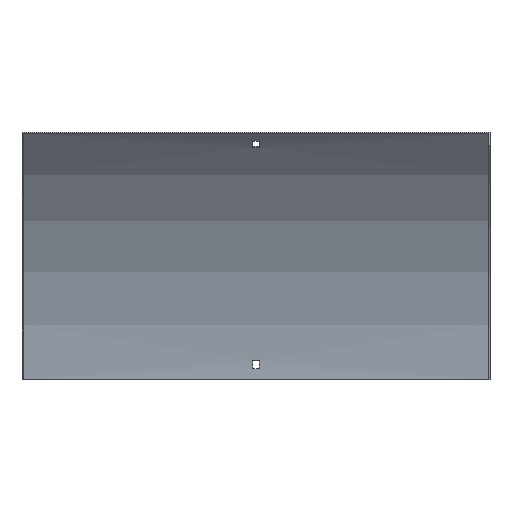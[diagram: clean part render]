
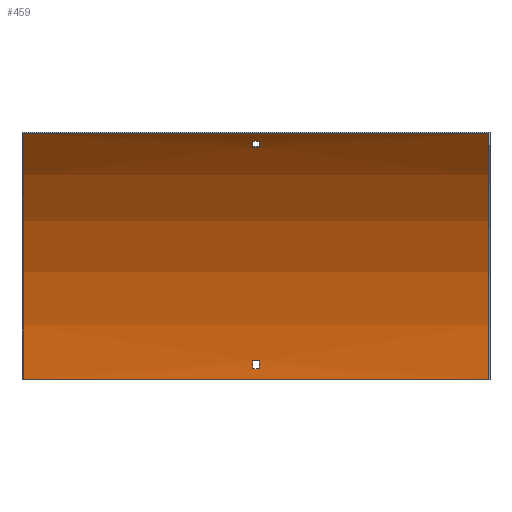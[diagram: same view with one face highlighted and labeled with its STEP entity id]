
A CAD part, front view. The second image highlights one B-rep face of the part: STEP entity #459.
In plain terms, the highlighted cylindrical face has radius 375 mm (diameter 750 mm), a partial arc.
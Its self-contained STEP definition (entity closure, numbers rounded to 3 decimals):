
#4 = VECTOR ( 'NONE', #315, 1000. ) ;
#7 = VECTOR ( 'NONE', #527, 1000. ) ;
#14 = CARTESIAN_POINT ( 'NONE',  ( -250., -376.5, 0. ) ) ;
#15 = ORIENTED_EDGE ( 'NONE', *, *, #390, .F. ) ;
#16 = EDGE_CURVE ( 'NONE', #564, #75, #227, .T. ) ;
#17 = LINE ( 'NONE', #484, #294 ) ;
#19 = AXIS2_PLACEMENT_3D ( 'NONE', #316, #593, #582 ) ;
#32 = EDGE_CURVE ( 'NONE', #292, #491, #547, .T. ) ;
#34 = ORIENTED_EDGE ( 'NONE', *, *, #52, .F. ) ;
#38 = VERTEX_POINT ( 'NONE', #181 ) ;
#44 = EDGE_LOOP ( 'NONE', ( #229, #192, #146, #287 ) ) ;
#45 = LINE ( 'NONE', #223, #81 ) ;
#52 = EDGE_CURVE ( 'NONE', #203, #564, #118, .T. ) ;
#57 = EDGE_LOOP ( 'NONE', ( #34, #499, #167, #235 ) ) ;
#75 = VERTEX_POINT ( 'NONE', #486 ) ;
#77 = FACE_BOUND ( 'NONE', #57, .T. ) ;
#78 = EDGE_CURVE ( 'NONE', #155, #203, #45, .T. ) ;
#81 = VECTOR ( 'NONE', #133, 1000. ) ;
#88 = CARTESIAN_POINT ( 'NONE',  ( -3.25, -376.5, 0. ) ) ;
#101 = ORIENTED_EDGE ( 'NONE', *, *, #119, .T. ) ;
#104 = CARTESIAN_POINT ( 'NONE',  ( -3.25, -96.902, 249.9 ) ) ;
#111 = VERTEX_POINT ( 'NONE', #601 ) ;
#113 = VECTOR ( 'NONE', #450, 1000. ) ;
#118 = CIRCLE ( 'NONE', #464, 375. ) ;
#119 = EDGE_CURVE ( 'NONE', #404, #292, #430, .T. ) ;
#125 = DIRECTION ( 'NONE',  ( -1., 0., 0. ) ) ;
#131 = EDGE_CURVE ( 'NONE', #111, #239, #567, .T. ) ;
#133 = DIRECTION ( 'NONE',  ( -1., 0., 0. ) ) ;
#136 = DIRECTION ( 'NONE',  ( -1., 0., 0. ) ) ;
#144 = DIRECTION ( 'NONE',  ( 0., 0., 1. ) ) ;
#146 = ORIENTED_EDGE ( 'NONE', *, *, #263, .T. ) ;
#155 = VERTEX_POINT ( 'NONE', #193 ) ;
#157 = DIRECTION ( 'NONE',  ( 1., 0., 0. ) ) ;
#167 = ORIENTED_EDGE ( 'NONE', *, *, #398, .F. ) ;
#181 = CARTESIAN_POINT ( 'NONE',  ( -250., -1.5, 0. ) ) ;
#192 = ORIENTED_EDGE ( 'NONE', *, *, #475, .T. ) ;
#193 = CARTESIAN_POINT ( 'NONE',  ( 3.25, -2.088, 21. ) ) ;
#203 = VERTEX_POINT ( 'NONE', #288 ) ;
#210 = DIRECTION ( 'NONE',  ( 0., 0., -1. ) ) ;
#221 = CARTESIAN_POINT ( 'NONE',  ( -3.25, -102.985, 256.544 ) ) ;
#223 = CARTESIAN_POINT ( 'NONE',  ( 251.5, -2.088, 21. ) ) ;
#227 = LINE ( 'NONE', #414, #4 ) ;
#229 = ORIENTED_EDGE ( 'NONE', *, *, #305, .T. ) ;
#235 = ORIENTED_EDGE ( 'NONE', *, *, #16, .F. ) ;
#239 = VERTEX_POINT ( 'NONE', #470 ) ;
#247 = VERTEX_POINT ( 'NONE', #104 ) ;
#248 = DIRECTION ( 'NONE',  ( 1., 0., 0. ) ) ;
#259 = LINE ( 'NONE', #400, #7 ) ;
#263 = EDGE_CURVE ( 'NONE', #384, #111, #17, .T. ) ;
#264 = CARTESIAN_POINT ( 'NONE',  ( -250., -111.335, 265.165 ) ) ;
#268 = CARTESIAN_POINT ( 'NONE',  ( 250., -1.5, 0. ) ) ;
#276 = CIRCLE ( 'NONE', #572, 375. ) ;
#277 = DIRECTION ( 'NONE',  ( 1., 0., 0. ) ) ;
#278 = DIRECTION ( 'NONE',  ( 0., 0., -1. ) ) ;
#287 = ORIENTED_EDGE ( 'NONE', *, *, #131, .T. ) ;
#288 = CARTESIAN_POINT ( 'NONE',  ( -3.25, -2.088, 21. ) ) ;
#292 = VERTEX_POINT ( 'NONE', #487 ) ;
#294 = VECTOR ( 'NONE', #248, 1000. ) ;
#305 = EDGE_CURVE ( 'NONE', #239, #247, #259, .T. ) ;
#315 = DIRECTION ( 'NONE',  ( 1., 0., 0. ) ) ;
#316 = CARTESIAN_POINT ( 'NONE',  ( 251.5, -376.5, 0. ) ) ;
#317 = VECTOR ( 'NONE', #125, 1000. ) ;
#320 = DIRECTION ( 'NONE',  ( 1., 0., 0. ) ) ;
#339 = AXIS2_PLACEMENT_3D ( 'NONE', #403, #505, #144 ) ;
#340 = CARTESIAN_POINT ( 'NONE',  ( 3.25, -376.5, 0. ) ) ;
#342 = DIRECTION ( 'NONE',  ( 0., 0., -1. ) ) ;
#362 = ORIENTED_EDGE ( 'NONE', *, *, #522, .F. ) ;
#366 = AXIS2_PLACEMENT_3D ( 'NONE', #488, #277, #210 ) ;
#369 = CARTESIAN_POINT ( 'NONE',  ( -3.25, -1.692, 12. ) ) ;
#373 = DIRECTION ( 'NONE',  ( 0., 0., 1. ) ) ;
#384 = VERTEX_POINT ( 'NONE', #221 ) ;
#390 = EDGE_CURVE ( 'NONE', #38, #491, #276, .T. ) ;
#398 = EDGE_CURVE ( 'NONE', #75, #155, #526, .T. ) ;
#400 = CARTESIAN_POINT ( 'NONE',  ( 251.5, -96.902, 249.9 ) ) ;
#402 = CYLINDRICAL_SURFACE ( 'NONE', #19, 375. ) ;
#403 = CARTESIAN_POINT ( 'NONE',  ( 3.25, -376.5, 0. ) ) ;
#404 = VERTEX_POINT ( 'NONE', #528 ) ;
#409 = FACE_BOUND ( 'NONE', #44, .T. ) ;
#410 = FACE_OUTER_BOUND ( 'NONE', #416, .T. ) ;
#414 = CARTESIAN_POINT ( 'NONE',  ( 251.5, -1.692, 12. ) ) ;
#416 = EDGE_LOOP ( 'NONE', ( #15, #362, #101, #463 ) ) ;
#417 = CARTESIAN_POINT ( 'NONE',  ( -3.25, -376.5, 0. ) ) ;
#430 = CIRCLE ( 'NONE', #366, 375. ) ;
#435 = DIRECTION ( 'NONE',  ( 0., 0., -1. ) ) ;
#437 = CIRCLE ( 'NONE', #515, 375. ) ;
#450 = DIRECTION ( 'NONE',  ( -1., 0., 0. ) ) ;
#459 = ADVANCED_FACE ( 'NONE', ( #77, #410, #409 ), #402, .F. ) ;
#462 = CARTESIAN_POINT ( 'NONE',  ( 250., -111.335, 265.165 ) ) ;
#463 = ORIENTED_EDGE ( 'NONE', *, *, #32, .T. ) ;
#464 = AXIS2_PLACEMENT_3D ( 'NONE', #417, #136, #373 ) ;
#470 = CARTESIAN_POINT ( 'NONE',  ( 3.25, -96.902, 249.9 ) ) ;
#475 = EDGE_CURVE ( 'NONE', #247, #384, #437, .T. ) ;
#484 = CARTESIAN_POINT ( 'NONE',  ( 251.5, -102.985, 256.544 ) ) ;
#486 = CARTESIAN_POINT ( 'NONE',  ( 3.25, -1.692, 12. ) ) ;
#487 = CARTESIAN_POINT ( 'NONE',  ( 250., -111.335, 265.165 ) ) ;
#488 = CARTESIAN_POINT ( 'NONE',  ( 250., -376.5, 0. ) ) ;
#491 = VERTEX_POINT ( 'NONE', #264 ) ;
#499 = ORIENTED_EDGE ( 'NONE', *, *, #78, .F. ) ;
#501 = LINE ( 'NONE', #268, #113 ) ;
#505 = DIRECTION ( 'NONE',  ( -1., 0., 0. ) ) ;
#515 = AXIS2_PLACEMENT_3D ( 'NONE', #88, #320, #278 ) ;
#522 = EDGE_CURVE ( 'NONE', #404, #38, #501, .T. ) ;
#526 = CIRCLE ( 'NONE', #581, 375. ) ;
#527 = DIRECTION ( 'NONE',  ( -1., 0., 0. ) ) ;
#528 = CARTESIAN_POINT ( 'NONE',  ( 250., -1.5, 0. ) ) ;
#547 = LINE ( 'NONE', #462, #317 ) ;
#564 = VERTEX_POINT ( 'NONE', #369 ) ;
#566 = DIRECTION ( 'NONE',  ( 1., 0., 0. ) ) ;
#567 = CIRCLE ( 'NONE', #339, 375. ) ;
#572 = AXIS2_PLACEMENT_3D ( 'NONE', #14, #566, #435 ) ;
#581 = AXIS2_PLACEMENT_3D ( 'NONE', #340, #157, #342 ) ;
#582 = DIRECTION ( 'NONE',  ( 0., 0., 1. ) ) ;
#593 = DIRECTION ( 'NONE',  ( -1., 0., 0. ) ) ;
#601 = CARTESIAN_POINT ( 'NONE',  ( 3.25, -102.985, 256.544 ) ) ;
